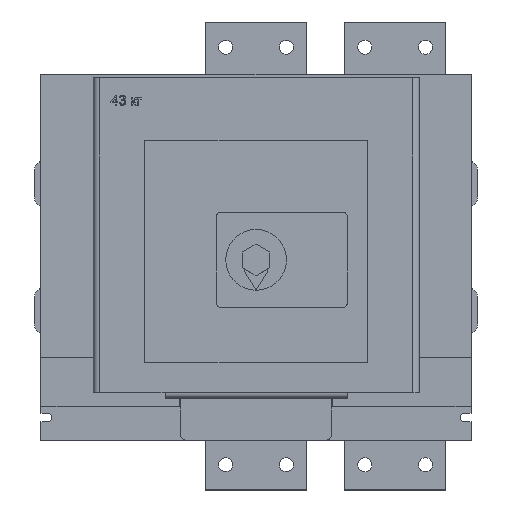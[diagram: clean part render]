
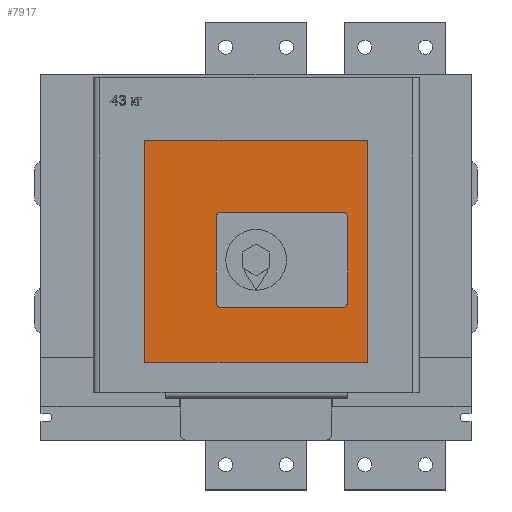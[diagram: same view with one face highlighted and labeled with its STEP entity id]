
A CAD part, top view. The second image highlights one B-rep face of the part: STEP entity #7917.
In plain terms, the highlighted planar face has unit normal (0, 0, 1).
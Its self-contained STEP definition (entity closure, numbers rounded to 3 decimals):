
#90 = ORIENTED_EDGE ( 'NONE', *, *, #4715, .F. ) ;
#107 = EDGE_CURVE ( 'NONE', #4290, #8259, #8237, .T. ) ;
#194 = FACE_OUTER_BOUND ( 'NONE', #902, .T. ) ;
#197 = DIRECTION ( 'NONE',  ( -1., 0., 0. ) ) ;
#224 = CIRCLE ( 'NONE', #7617, 5. ) ;
#341 = CARTESIAN_POINT ( 'NONE',  ( 178.1, 220., 266.8 ) ) ;
#402 = ORIENTED_EDGE ( 'NONE', *, *, #3133, .F. ) ;
#405 = CARTESIAN_POINT ( 'NONE',  ( 322.6, 296., 266.8 ) ) ;
#436 = CIRCLE ( 'NONE', #3387, 5. ) ;
#462 = LINE ( 'NONE', #1429, #4243 ) ;
#499 = VERTEX_POINT ( 'NONE', #7420 ) ;
#637 = DIRECTION ( 'NONE',  ( 0., 0., 1. ) ) ;
#785 = ORIENTED_EDGE ( 'NONE', *, *, #7297, .F. ) ;
#805 = VECTOR ( 'NONE', #1795, 1000. ) ;
#902 = EDGE_LOOP ( 'NONE', ( #5041, #5806, #1184, #2586 ) ) ;
#969 = VECTOR ( 'NONE', #8629, 1000. ) ;
#1095 = VERTEX_POINT ( 'NONE', #4203 ) ;
#1114 = DIRECTION ( 'NONE',  ( 1., 0., 0. ) ) ;
#1184 = ORIENTED_EDGE ( 'NONE', *, *, #7717, .T. ) ;
#1285 = VERTEX_POINT ( 'NONE', #4864 ) ;
#1286 = CIRCLE ( 'NONE', #3929, 5. ) ;
#1429 = CARTESIAN_POINT ( 'NONE',  ( 298.1, 225., 266.8 ) ) ;
#1686 = DIRECTION ( 'NONE',  ( 0., 0., 1. ) ) ;
#1795 = DIRECTION ( 'NONE',  ( 0., 1., 0. ) ) ;
#1797 = EDGE_CURVE ( 'NONE', #1095, #4182, #3440, .T. ) ;
#1862 = DIRECTION ( 'NONE',  ( 0., -1., 0. ) ) ;
#1885 = VERTEX_POINT ( 'NONE', #4821 ) ;
#1911 = VECTOR ( 'NONE', #6860, 1000. ) ;
#2026 = LINE ( 'NONE', #4740, #4592 ) ;
#2075 = DIRECTION ( 'NONE',  ( 1., 0., 0. ) ) ;
#2175 = ORIENTED_EDGE ( 'NONE', *, *, #4621, .F. ) ;
#2241 = DIRECTION ( 'NONE',  ( 0., -1., 0. ) ) ;
#2439 = CARTESIAN_POINT ( 'NONE',  ( 322.6, 77., 266.8 ) ) ;
#2460 = VERTEX_POINT ( 'NONE', #4749 ) ;
#2554 = CARTESIAN_POINT ( 'NONE',  ( 102.6, 77., 266.8 ) ) ;
#2586 = ORIENTED_EDGE ( 'NONE', *, *, #107, .T. ) ;
#2736 = EDGE_CURVE ( 'NONE', #2460, #1285, #5572, .T. ) ;
#2823 = FACE_BOUND ( 'NONE', #5673, .T. ) ;
#2913 = PLANE ( 'NONE',  #8522 ) ;
#3046 = CARTESIAN_POINT ( 'NONE',  ( 102.6, 77., 266.8 ) ) ;
#3048 = VERTEX_POINT ( 'NONE', #6607 ) ;
#3088 = ORIENTED_EDGE ( 'NONE', *, *, #4958, .F. ) ;
#3133 = EDGE_CURVE ( 'NONE', #5295, #6962, #224, .T. ) ;
#3245 = EDGE_CURVE ( 'NONE', #3048, #1885, #436, .T. ) ;
#3387 = AXIS2_PLACEMENT_3D ( 'NONE', #5301, #6639, #5978 ) ;
#3440 = CIRCLE ( 'NONE', #5151, 5. ) ;
#3622 = CARTESIAN_POINT ( 'NONE',  ( 298.1, 136., 266.8 ) ) ;
#3918 = EDGE_CURVE ( 'NONE', #6962, #3048, #5394, .T. ) ;
#3929 = AXIS2_PLACEMENT_3D ( 'NONE', #341, #637, #2075 ) ;
#4006 = VERTEX_POINT ( 'NONE', #7440 ) ;
#4012 = VECTOR ( 'NONE', #7797, 1000. ) ;
#4182 = VERTEX_POINT ( 'NONE', #4918 ) ;
#4203 = CARTESIAN_POINT ( 'NONE',  ( 173.1, 136., 266.8 ) ) ;
#4243 = VECTOR ( 'NONE', #197, 1000. ) ;
#4290 = VERTEX_POINT ( 'NONE', #2554 ) ;
#4344 = ORIENTED_EDGE ( 'NONE', *, *, #3245, .F. ) ;
#4473 = CARTESIAN_POINT ( 'NONE',  ( 0., 0., 266.8 ) ) ;
#4574 = DIRECTION ( 'NONE',  ( 1., 0., 0. ) ) ;
#4592 = VECTOR ( 'NONE', #6874, 1000. ) ;
#4621 = EDGE_CURVE ( 'NONE', #1885, #499, #462, .T. ) ;
#4715 = EDGE_CURVE ( 'NONE', #4182, #5295, #2026, .T. ) ;
#4740 = CARTESIAN_POINT ( 'NONE',  ( 178.1, 131., 266.8 ) ) ;
#4749 = CARTESIAN_POINT ( 'NONE',  ( 322.6, 296., 266.8 ) ) ;
#4754 = CARTESIAN_POINT ( 'NONE',  ( 322.6, 77., 266.8 ) ) ;
#4821 = CARTESIAN_POINT ( 'NONE',  ( 298.1, 225., 266.8 ) ) ;
#4864 = CARTESIAN_POINT ( 'NONE',  ( 102.6, 296., 266.8 ) ) ;
#4918 = CARTESIAN_POINT ( 'NONE',  ( 178.1, 131., 266.8 ) ) ;
#4945 = DIRECTION ( 'NONE',  ( 0., 0., 1. ) ) ;
#4958 = EDGE_CURVE ( 'NONE', #499, #4006, #1286, .T. ) ;
#5041 = ORIENTED_EDGE ( 'NONE', *, *, #7922, .T. ) ;
#5151 = AXIS2_PLACEMENT_3D ( 'NONE', #5370, #5285, #1114 ) ;
#5228 = VECTOR ( 'NONE', #2241, 1000. ) ;
#5285 = DIRECTION ( 'NONE',  ( 0., 0., 1. ) ) ;
#5295 = VERTEX_POINT ( 'NONE', #5604 ) ;
#5301 = CARTESIAN_POINT ( 'NONE',  ( 298.1, 220., 266.8 ) ) ;
#5370 = CARTESIAN_POINT ( 'NONE',  ( 178.1, 136., 266.8 ) ) ;
#5394 = LINE ( 'NONE', #8166, #1911 ) ;
#5572 = LINE ( 'NONE', #405, #4012 ) ;
#5604 = CARTESIAN_POINT ( 'NONE',  ( 298.1, 131., 266.8 ) ) ;
#5664 = DIRECTION ( 'NONE',  ( 1., 0., 0. ) ) ;
#5673 = EDGE_LOOP ( 'NONE', ( #4344, #6387, #402, #90, #7703, #785, #3088, #2175 ) ) ;
#5806 = ORIENTED_EDGE ( 'NONE', *, *, #2736, .T. ) ;
#5930 = CARTESIAN_POINT ( 'NONE',  ( 303.1, 136., 266.8 ) ) ;
#5978 = DIRECTION ( 'NONE',  ( 1., 0., 0. ) ) ;
#5983 = LINE ( 'NONE', #2439, #805 ) ;
#6387 = ORIENTED_EDGE ( 'NONE', *, *, #3918, .F. ) ;
#6607 = CARTESIAN_POINT ( 'NONE',  ( 303.1, 220., 266.8 ) ) ;
#6639 = DIRECTION ( 'NONE',  ( 0., 0., 1. ) ) ;
#6860 = DIRECTION ( 'NONE',  ( 0., 1., 0. ) ) ;
#6874 = DIRECTION ( 'NONE',  ( 1., 0., 0. ) ) ;
#6962 = VERTEX_POINT ( 'NONE', #5930 ) ;
#7265 = CARTESIAN_POINT ( 'NONE',  ( 322.6, 77., 266.8 ) ) ;
#7266 = VECTOR ( 'NONE', #1862, 1000. ) ;
#7297 = EDGE_CURVE ( 'NONE', #4006, #1095, #8577, .T. ) ;
#7420 = CARTESIAN_POINT ( 'NONE',  ( 178.1, 225., 266.8 ) ) ;
#7440 = CARTESIAN_POINT ( 'NONE',  ( 173.1, 220., 266.8 ) ) ;
#7617 = AXIS2_PLACEMENT_3D ( 'NONE', #3622, #1686, #5664 ) ;
#7680 = LINE ( 'NONE', #3046, #7266 ) ;
#7703 = ORIENTED_EDGE ( 'NONE', *, *, #1797, .F. ) ;
#7717 = EDGE_CURVE ( 'NONE', #1285, #4290, #7680, .T. ) ;
#7797 = DIRECTION ( 'NONE',  ( -1., 0., 0. ) ) ;
#7917 = ADVANCED_FACE ( 'NONE', ( #2823, #194 ), #2913, .T. ) ;
#7922 = EDGE_CURVE ( 'NONE', #8259, #2460, #5983, .T. ) ;
#8049 = CARTESIAN_POINT ( 'NONE',  ( 173.1, 220., 266.8 ) ) ;
#8166 = CARTESIAN_POINT ( 'NONE',  ( 303.1, 136., 266.8 ) ) ;
#8237 = LINE ( 'NONE', #4754, #969 ) ;
#8259 = VERTEX_POINT ( 'NONE', #7265 ) ;
#8522 = AXIS2_PLACEMENT_3D ( 'NONE', #4473, #4945, #4574 ) ;
#8577 = LINE ( 'NONE', #8049, #5228 ) ;
#8629 = DIRECTION ( 'NONE',  ( 1., 0., 0. ) ) ;
